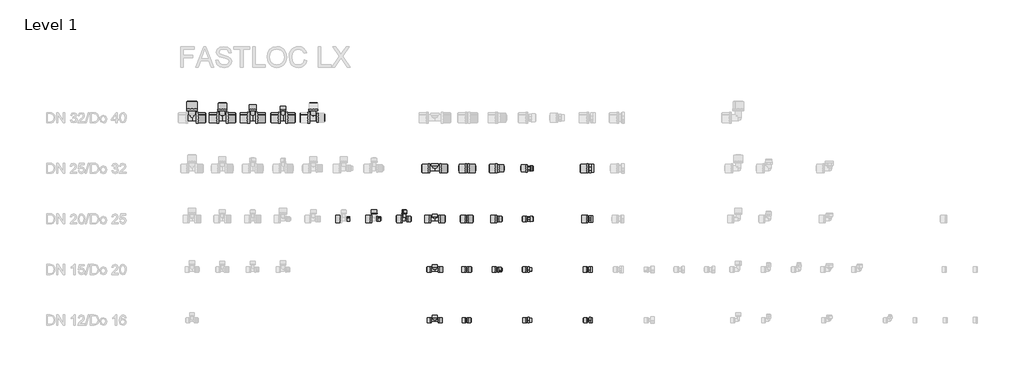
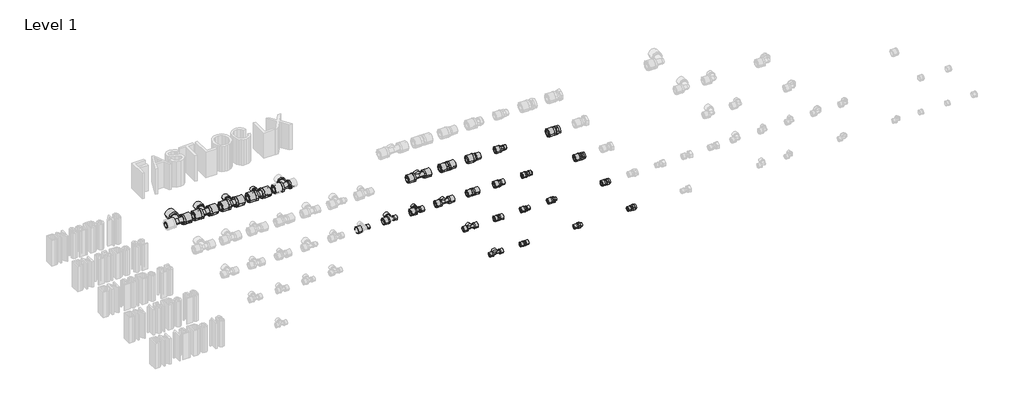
# One storey, part 2 of 4: 124 pipe fittings.
"""IFC4 building model written with IfcOpenShell, lengths in millimetres."""

from ifc_helpers import new_model, si_unit, origin, place, context, project, spatial, transform, mapped, element, save
from components import pipe_fitting_d1512616, pipe_fitting_53f43fdb, pipe_fitting_049613d0, pipe_fitting_c7c0347b, pipe_fitting_bcc3186d, pipe_fitting_274f672a, pipe_fitting_238fadd8, pipe_fitting_b6172677, pipe_fitting_dc7a118d, pipe_fitting_08194d44, pipe_fitting_df035500, pipe_fitting_cd8a310a, pipe_fitting_f0f965a3, pipe_fitting_ccabc239, pipe_fitting_4e5b1f9a, pipe_fitting_ba498e85, pipe_fitting_08e86eaf, pipe_fitting_1bd85c2e, pipe_fitting_81e095b9, pipe_fitting_978079ad, pipe_fitting_e33b69b1, pipe_fitting_42f006d8, pipe_fitting_a33f7a1e, pipe_fitting_a3bd5d88, pipe_fitting_08f3d266, pipe_fitting_0fc03181, pipe_fitting_095a3a5d, pipe_fitting_23295b15, pipe_fitting_82e31f29, pipe_fitting_c9032ad2, sleeve_fsl_pvdf_957fc3e3, sleeve_fsl_pvdf_9ecdae78, sleeve_fsl_pvdf_b286e573, sleeve_fsl_pvdf_64652941, sleeve_fsl_pvdf_bb947688

model = new_model("IFC4")

# Units and contexts
model_context = context("Model", 3, world=origin())
ifc_project = project(units=[si_unit("LENGTHUNIT", "METRE", prefix="MILLI")], contexts=[model_context])

# Site, building, storey
site = spatial("IfcSite", under=ifc_project)
building = spatial("IfcBuilding", under=site)
storey = spatial("IfcBuildingStorey", under=building, Name="Level 1", Elevation=0.0)

# Pipe fittings
placement = place(None, origin())
pipe_fitting_shape = pipe_fitting_d1512616(model_context)
element("IfcPipeFitting", 1, ObjectType="FASTLOC_Sleeve outside : FSL S O DN1", at=placement, inside=storey, context=model_context, shape_type="MappedRepresentation", body=[
    mapped(pipe_fitting_shape, transform((1654.0, 0.0, 0.0), x_axis=(-1.0, 0.0, 0.0), y_axis=(0.0, -1.0, 0.0), z_axis=(0.0, 0.0, 1.0))),
])
element("IfcPipeFitting", 2, ObjectType="FASTLOC_Sleeve outside : FSL S O DN1", at=placement, inside=storey, context=model_context, shape_type="MappedRepresentation", body=[
    mapped(pipe_fitting_shape, transform((1954.0, 0.0, 0.0), x_axis=(-1.0, 0.0, 0.0), y_axis=(0.0, -1.0, 0.0), z_axis=(0.0, 0.0, 1.0))),
])
element("IfcPipeFitting", 3, ObjectType="FASTLOC_Sleeve outside : FSL S O DN1", at=placement, inside=storey, context=model_context, shape_type="MappedRepresentation", body=[
    mapped(pipe_fitting_shape, transform((1354.0, 0.0, 0.0), x_axis=(-1.0, 0.0, 0.0), y_axis=(0.0, -1.0, 0.0), z_axis=(0.0, 0.0, 1.0))),
])
element("IfcPipeFitting", 4, ObjectType="FASTLOC_Sleeve outside : FSL S O DN1", at=placement, inside=storey, context=model_context, shape_type="MappedRepresentation", body=[
    mapped(pipe_fitting_shape, transform((1360.4, 0.0, 0.0), x_axis=(1.0, 0.0, 0.0), y_axis=(0.0, 1.0, 0.0), z_axis=(0.0, 0.0, 1.0))),
])
element("IfcPipeFitting", 5, ObjectType="FASTLOC_Sleeve outside : FSL S O DN1", at=placement, inside=storey, context=model_context, shape_type="MappedRepresentation", body=[
    mapped(pipe_fitting_shape, transform((1511.0, 250.0, 0.0), x_axis=(1.0, 0.0, 0.0), y_axis=(0.0, 1.0, 0.0), z_axis=(0.0, 0.0, 1.0))),
])
element("IfcPipeFitting", 6, ObjectType="FASTLOC_Sleeve outside : FSL S O DN1", at=placement, inside=storey, context=model_context, shape_type="MappedRepresentation", body=[
    mapped(pipe_fitting_shape, transform((1182.0, 0.0, 0.0), x_axis=(-1.0, 0.0, 0.0), y_axis=(0.0, -1.0, 0.0), z_axis=(0.0, 0.0, 1.0))),
])
element("IfcPipeFitting", 7, ObjectType="FASTLOC_Sleeve outside : FSL S O DN1", at=placement, inside=storey, context=model_context, shape_type="MappedRepresentation", body=[
    mapped(pipe_fitting_shape, transform((1218.0, 0.0, 0.0), x_axis=(1.0, 0.0, 0.0), y_axis=(0.0, 1.0, 0.0), z_axis=(0.0, 0.0, 1.0))),
])
element("IfcPipeFitting", 8, ObjectType="FASTLOC_Sleeve outside : FSL S O DN1", at=placement, inside=storey, context=model_context, shape_type="MappedRepresentation", body=[
    mapped(pipe_fitting_shape, transform((1050.0, 525.1, 0.0), x_axis=(0.0, 1.0, 0.0), y_axis=(-1.0, 0.0, 0.0), z_axis=(0.0, 0.0, 1.0))),
])
element("IfcPipeFitting", 9, ObjectType="FASTLOC_Sleeve outside : FSL S O DN1", at=placement, inside=storey, context=model_context, shape_type="MappedRepresentation", body=[
    mapped(pipe_fitting_shape, transform((913.0, 500.0, 0.0), x_axis=(1.0, 0.0, 0.0), y_axis=(0.0, 1.0, 0.0), z_axis=(0.0, 0.0, 1.0))),
])
pipe_fitting_2_shape = pipe_fitting_53f43fdb(model_context)
element("IfcPipeFitting", 10, ObjectType="FASTLOC_Sleeve outside : FSL S O DN1", at=placement, inside=storey, context=model_context, shape_type="MappedRepresentation", body=[
    mapped(pipe_fitting_2_shape, transform((1654.7, 250.0, 0.0), x_axis=(-1.0, 0.0, 0.0), y_axis=(0.0, -1.0, 0.0), z_axis=(0.0, 0.0, 1.0))),
])
element("IfcPipeFitting", 11, ObjectType="FASTLOC_Sleeve outside : FSL S O DN1", at=placement, inside=storey, context=model_context, shape_type="MappedRepresentation", body=[
    mapped(pipe_fitting_2_shape, transform((1654.7, 500.0, 0.0), x_axis=(-1.0, 0.0, 0.0), y_axis=(0.0, -1.0, 0.0), z_axis=(0.0, 0.0, 1.0))),
])
element("IfcPipeFitting", 12, ObjectType="FASTLOC_Sleeve outside : FSL S O DN1", at=placement, inside=storey, context=model_context, shape_type="MappedRepresentation", body=[
    mapped(pipe_fitting_2_shape, transform((1954.7, 250.0, 0.0), x_axis=(-1.0, 0.0, 0.0), y_axis=(0.0, -1.0, 0.0), z_axis=(0.0, 0.0, 1.0))),
])
element("IfcPipeFitting", 13, ObjectType="FASTLOC_Sleeve outside : FSL S O DN1", at=placement, inside=storey, context=model_context, shape_type="MappedRepresentation", body=[
    mapped(pipe_fitting_2_shape, transform((1354.7, 250.0, 0.0), x_axis=(-1.0, 0.0, 0.0), y_axis=(0.0, -1.0, 0.0), z_axis=(0.0, 0.0, 1.0))),
])
element("IfcPipeFitting", 14, ObjectType="FASTLOC_Sleeve outside : FSL S O DN1", at=placement, inside=storey, context=model_context, shape_type="MappedRepresentation", body=[
    mapped(pipe_fitting_2_shape, transform((1360.1, 250.0, 0.0), x_axis=(1.0, 0.0, 0.0), y_axis=(0.0, 1.0, 0.0), z_axis=(0.0, 0.0, 1.0))),
])
element("IfcPipeFitting", 15, ObjectType="FASTLOC_Sleeve outside : FSL S O DN1", at=placement, inside=storey, context=model_context, shape_type="MappedRepresentation", body=[
    mapped(pipe_fitting_2_shape, transform((1504.7, 250.0, 0.0), x_axis=(-1.0, 0.0, 0.0), y_axis=(0.0, -1.0, 0.0), z_axis=(0.0, 0.0, 1.0))),
])
element("IfcPipeFitting", 16, ObjectType="FASTLOC_Sleeve outside : FSL S O DN1", at=placement, inside=storey, context=model_context, shape_type="MappedRepresentation", body=[
    mapped(pipe_fitting_2_shape, transform((1510.8, 500.0, 0.0), x_axis=(1.0, 0.0, 0.0), y_axis=(0.0, 1.0, 0.0), z_axis=(0.0, 0.0, 1.0))),
])
element("IfcPipeFitting", 17, ObjectType="FASTLOC_Sleeve outside : FSL S O DN1", at=placement, inside=storey, context=model_context, shape_type="MappedRepresentation", body=[
    mapped(pipe_fitting_2_shape, transform((1182.2, 250.0, 0.0), x_axis=(-1.0, 0.0, 0.0), y_axis=(0.0, -1.0, 0.0), z_axis=(0.0, 0.0, 1.0))),
])
element("IfcPipeFitting", 18, ObjectType="FASTLOC_Sleeve outside : FSL S O DN1", at=placement, inside=storey, context=model_context, shape_type="MappedRepresentation", body=[
    mapped(pipe_fitting_2_shape, transform((1217.8, 250.0, 0.0), x_axis=(1.0, 0.0, 0.0), y_axis=(0.0, 1.0, 0.0), z_axis=(0.0, 0.0, 1.0))),
])
element("IfcPipeFitting", 19, ObjectType="FASTLOC_Sleeve outside : FSL S O DN1", at=placement, inside=storey, context=model_context, shape_type="MappedRepresentation", body=[
    mapped(pipe_fitting_2_shape, transform((450.0, 1035.8, 0.0), x_axis=(0.0, 1.0, 0.0), y_axis=(-1.0, 0.0, 0.0), z_axis=(0.0, 0.0, 1.0))),
])
element("IfcPipeFitting", 20, ObjectType="FASTLOC_Sleeve outside : FSL S O DN1", at=placement, inside=storey, context=model_context, shape_type="MappedRepresentation", body=[
    mapped(pipe_fitting_2_shape, transform((1060.8, 500.0, 0.0), x_axis=(1.0, 0.0, 0.0), y_axis=(0.0, 1.0, 0.0), z_axis=(0.0, 0.0, 1.0))),
])
element("IfcPipeFitting", 21, ObjectType="FASTLOC_Sleeve outside : FSL S O DN1", at=placement, inside=storey, context=model_context, shape_type="MappedRepresentation", body=[
    mapped(pipe_fitting_2_shape, transform((900.0, 524.5, 0.0), x_axis=(0.0, 1.0, 0.0), y_axis=(-1.0, 0.0, 0.0), z_axis=(0.0, 0.0, 1.0))),
])
pipe_fitting_3_shape = pipe_fitting_049613d0(model_context)
element("IfcPipeFitting", 22, ObjectType="FASTLOC_Sleeve outside : FSL S O DN1", at=placement, inside=storey, context=model_context, shape_type="MappedRepresentation", body=[
    mapped(pipe_fitting_3_shape, transform((1656.0, 750.0, 0.0), x_axis=(-1.0, 0.0, 0.0), y_axis=(0.0, -1.0, 0.0), z_axis=(0.0, 0.0, 1.0))),
])
element("IfcPipeFitting", 23, ObjectType="FASTLOC_Sleeve outside : FSL S O DN1", at=placement, inside=storey, context=model_context, shape_type="MappedRepresentation", body=[
    mapped(pipe_fitting_3_shape, transform((1956.0, 500.0, 0.0), x_axis=(-1.0, 0.0, 0.0), y_axis=(0.0, -1.0, 0.0), z_axis=(0.0, 0.0, 1.0))),
])
element("IfcPipeFitting", 24, ObjectType="FASTLOC_Sleeve outside : FSL S O DN1", at=placement, inside=storey, context=model_context, shape_type="MappedRepresentation", body=[
    mapped(pipe_fitting_3_shape, transform((1356.0, 500.0, 0.0), x_axis=(-1.0, 0.0, 0.0), y_axis=(0.0, -1.0, 0.0), z_axis=(0.0, 0.0, 1.0))),
])
element("IfcPipeFitting", 25, ObjectType="FASTLOC_Sleeve outside : FSL S O DN1", at=placement, inside=storey, context=model_context, shape_type="MappedRepresentation", body=[
    mapped(pipe_fitting_3_shape, transform((1360.0, 500.0, 0.0), x_axis=(1.0, 0.0, 0.0), y_axis=(0.0, 1.0, 0.0), z_axis=(0.0, 0.0, 1.0))),
])
element("IfcPipeFitting", 26, ObjectType="FASTLOC_Sleeve outside : FSL S O DN1", at=placement, inside=storey, context=model_context, shape_type="MappedRepresentation", body=[
    mapped(pipe_fitting_3_shape, transform((1506.0, 500.0, 0.0), x_axis=(-1.0, 0.0, 0.0), y_axis=(0.0, -1.0, 0.0), z_axis=(0.0, 0.0, 1.0))),
])
element("IfcPipeFitting", 27, ObjectType="FASTLOC_Sleeve outside : FSL S O DN1", at=placement, inside=storey, context=model_context, shape_type="MappedRepresentation", body=[
    mapped(pipe_fitting_3_shape, transform((1512.2, 750.0, 0.0), x_axis=(1.0, 0.0, 0.0), y_axis=(0.0, 1.0, 0.0), z_axis=(0.0, 0.0, 1.0))),
])
element("IfcPipeFitting", 28, ObjectType="FASTLOC_Sleeve outside : FSL S O DN1", at=placement, inside=storey, context=model_context, shape_type="MappedRepresentation", body=[
    mapped(pipe_fitting_3_shape, transform((1179.3, 500.0, 0.0), x_axis=(-1.0, 0.0, 0.0), y_axis=(0.0, -1.0, 0.0), z_axis=(0.0, 0.0, 1.0))),
])
element("IfcPipeFitting", 29, ObjectType="FASTLOC_Sleeve outside : FSL S O DN1", at=placement, inside=storey, context=model_context, shape_type="MappedRepresentation", body=[
    mapped(pipe_fitting_3_shape, transform((1220.7, 500.0, 0.0), x_axis=(1.0, 0.0, 0.0), y_axis=(0.0, 1.0, 0.0), z_axis=(0.0, 0.0, 1.0))),
])
element("IfcPipeFitting", 30, ObjectType="FASTLOC_Sleeve outside : FSL S O DN1", at=placement, inside=storey, context=model_context, shape_type="MappedRepresentation", body=[
    mapped(pipe_fitting_3_shape, transform((300.0, 1035.0, 0.0), x_axis=(0.0, 1.0, 0.0), y_axis=(-1.0, 0.0, 0.0), z_axis=(0.0, 0.0, 1.0))),
])
element("IfcPipeFitting", 31, ObjectType="FASTLOC_Sleeve outside : FSL S O DN1", at=placement, inside=storey, context=model_context, shape_type="MappedRepresentation", body=[
    mapped(pipe_fitting_3_shape, transform((1039.6, 500.0, 0.0), x_axis=(-1.0, 0.0, 0.0), y_axis=(0.0, -1.0, 0.0), z_axis=(0.0, 0.0, 1.0))),
])
element("IfcPipeFitting", 32, ObjectType="FASTLOC_Sleeve outside : FSL S O DN1", at=placement, inside=storey, context=model_context, shape_type="MappedRepresentation", body=[
    mapped(pipe_fitting_3_shape, transform((887.7, 500.0, 0.0), x_axis=(-1.0, 0.0, 0.0), y_axis=(0.0, -1.0, 0.0), z_axis=(0.0, 0.0, 1.0))),
])
pipe_fitting_4_shape = pipe_fitting_c7c0347b(model_context)
element("IfcPipeFitting", 33, ObjectType="FASTLOC_Sleeve outside : FSL S O DN1", at=placement, inside=storey, context=model_context, shape_type="MappedRepresentation", body=[
    mapped(pipe_fitting_4_shape, transform((1958.0, 750.0, 0.0), x_axis=(-1.0, 0.0, 0.0), y_axis=(0.0, -1.0, 0.0), z_axis=(0.0, 0.0, 1.0))),
])
element("IfcPipeFitting", 34, ObjectType="FASTLOC_Sleeve outside : FSL S O DN1", at=placement, inside=storey, context=model_context, shape_type="MappedRepresentation", body=[
    mapped(pipe_fitting_4_shape, transform((1358.0, 750.0, 0.0), x_axis=(-1.0, 0.0, 0.0), y_axis=(0.0, -1.0, 0.0), z_axis=(0.0, 0.0, 1.0))),
])
element("IfcPipeFitting", 35, ObjectType="FASTLOC_Sleeve outside : FSL S O DN1", at=placement, inside=storey, context=model_context, shape_type="MappedRepresentation", body=[
    mapped(pipe_fitting_4_shape, transform((1362.0, 750.0, 0.0), x_axis=(1.0, 0.0, 0.0), y_axis=(0.0, 1.0, 0.0), z_axis=(0.0, 0.0, 1.0))),
])
element("IfcPipeFitting", 36, ObjectType="FASTLOC_Sleeve outside : FSL S O DN1", at=placement, inside=storey, context=model_context, shape_type="MappedRepresentation", body=[
    mapped(pipe_fitting_4_shape, transform((1508.0, 750.0, 0.0), x_axis=(-1.0, 0.0, 0.0), y_axis=(0.0, -1.0, 0.0), z_axis=(0.0, 0.0, 1.0))),
])
element("IfcPipeFitting", 37, ObjectType="FASTLOC_Sleeve outside : FSL S O DN1", at=placement, inside=storey, context=model_context, shape_type="MappedRepresentation", body=[
    mapped(pipe_fitting_4_shape, transform((1175.0, 750.0, 0.0), x_axis=(-1.0, 0.0, 0.0), y_axis=(0.0, -1.0, 0.0), z_axis=(0.0, 0.0, 1.0))),
])
element("IfcPipeFitting", 38, ObjectType="FASTLOC_Sleeve outside : FSL S O DN1", at=placement, inside=storey, context=model_context, shape_type="MappedRepresentation", body=[
    mapped(pipe_fitting_4_shape, transform((1225.0, 750.0, 0.0), x_axis=(1.0, 0.0, 0.0), y_axis=(0.0, 1.0, 0.0), z_axis=(0.0, 0.0, 1.0))),
])
element("IfcPipeFitting", 39, ObjectType="FASTLOC_Sleeve outside : FSL S O DN1", at=placement, inside=storey, context=model_context, shape_type="MappedRepresentation", body=[
    mapped(pipe_fitting_4_shape, transform((150.0, 1034.8, 0.0), x_axis=(0.0, 1.0, 0.0), y_axis=(-1.0, 0.0, 0.0), z_axis=(0.0, 0.0, 1.0))),
])
element("IfcPipeFitting", 40, ObjectType="FASTLOC_Sleeve outside : FSL S O DN1", at=placement, inside=storey, context=model_context, shape_type="MappedRepresentation", body=[
    mapped(pipe_fitting_4_shape, transform((600.0, 1034.8, 0.0), x_axis=(0.0, 1.0, 0.0), y_axis=(-1.0, 0.0, 0.0), z_axis=(0.0, 0.0, 1.0))),
])
element("IfcPipeFitting", 41, ObjectType="FASTLOC_Sleeve outside : FSL S O DN1", at=placement, inside=storey, context=model_context, shape_type="MappedRepresentation", body=[
    mapped(pipe_fitting_4_shape, transform((616.9, 1000.0, 0.0), x_axis=(1.0, 0.0, 0.0), y_axis=(0.0, 1.0, 0.0), z_axis=(0.0, 0.0, 1.0))),
])
pipe_fitting_5_shape = pipe_fitting_bcc3186d(model_context)
element("IfcPipeFitting", 42, ObjectType="FASTLOC_Sleeve outside : FSL S O DN1", at=placement, inside=storey, context=model_context, shape_type="MappedRepresentation", body=[
    mapped(pipe_fitting_5_shape, transform((0.0, 1034.7, 0.0), x_axis=(0.0, 1.0, 0.0), y_axis=(-1.0, 0.0, 0.0), z_axis=(0.0, 0.0, 1.0))),
])
element("IfcPipeFitting", 43, ObjectType="FASTLOC_Sleeve outside : FSL S O DN1", at=placement, inside=storey, context=model_context, shape_type="MappedRepresentation", body=[
    mapped(pipe_fitting_5_shape, transform((21.4, 1000.0, 0.0), x_axis=(1.0, 0.0, 0.0), y_axis=(0.0, 1.0, 0.0), z_axis=(0.0, 0.0, 1.0))),
])
element("IfcPipeFitting", 44, ObjectType="FASTLOC_Sleeve outside : FSL S O DN1", at=placement, inside=storey, context=model_context, shape_type="MappedRepresentation", body=[
    mapped(pipe_fitting_5_shape, transform((436.0, 1000.0, 0.0), x_axis=(-1.0, 0.0, 0.0), y_axis=(0.0, -1.0, 0.0), z_axis=(0.0, 0.0, 1.0))),
])
element("IfcPipeFitting", 45, ObjectType="FASTLOC_Sleeve outside : FSL S O DN1", at=placement, inside=storey, context=model_context, shape_type="MappedRepresentation", body=[
    mapped(pipe_fitting_5_shape, transform((464.0, 1000.0, 0.0), x_axis=(1.0, 0.0, 0.0), y_axis=(0.0, 1.0, 0.0), z_axis=(0.0, 0.0, 1.0))),
])
element("IfcPipeFitting", 46, ObjectType="FASTLOC_Sleeve outside : FSL S O DN1", at=placement, inside=storey, context=model_context, shape_type="MappedRepresentation", body=[
    mapped(pipe_fitting_5_shape, transform((284.2, 1000.0, 0.0), x_axis=(-1.0, 0.0, 0.0), y_axis=(0.0, -1.0, 0.0), z_axis=(0.0, 0.0, 1.0))),
])
element("IfcPipeFitting", 47, ObjectType="FASTLOC_Sleeve outside : FSL S O DN1", at=placement, inside=storey, context=model_context, shape_type="MappedRepresentation", body=[
    mapped(pipe_fitting_5_shape, transform((315.8, 1000.0, 0.0), x_axis=(1.0, 0.0, 0.0), y_axis=(0.0, 1.0, 0.0), z_axis=(0.0, 0.0, 1.0))),
])
element("IfcPipeFitting", 48, ObjectType="FASTLOC_Sleeve outside : FSL S O DN1", at=placement, inside=storey, context=model_context, shape_type="MappedRepresentation", body=[
    mapped(pipe_fitting_5_shape, transform((131.4, 1000.0, 0.0), x_axis=(-1.0, 0.0, 0.0), y_axis=(0.0, -1.0, 0.0), z_axis=(0.0, 0.0, 1.0))),
])
element("IfcPipeFitting", 49, ObjectType="FASTLOC_Sleeve outside : FSL S O DN1", at=placement, inside=storey, context=model_context, shape_type="MappedRepresentation", body=[
    mapped(pipe_fitting_5_shape, transform((168.6, 1000.0, 0.0), x_axis=(1.0, 0.0, 0.0), y_axis=(0.0, 1.0, 0.0), z_axis=(0.0, 0.0, 1.0))),
])
element("IfcPipeFitting", 50, ObjectType="FASTLOC_Sleeve outside : FSL S O DN1", at=placement, inside=storey, context=model_context, shape_type="MappedRepresentation", body=[
    mapped(pipe_fitting_5_shape, transform((581.3, 1000.0, 0.0), x_axis=(-1.0, 0.0, 0.0), y_axis=(0.0, -1.0, 0.0), z_axis=(0.0, 0.0, 1.0))),
])
pipe_fitting_6_shape = pipe_fitting_274f672a(model_context)
element("IfcPipeFitting", 51, ObjectType="FASTLOC_Adapter_LX, with external thread : FSL A C external PL", at=placement, inside=storey, context=model_context, shape_type="MappedRepresentation", body=[
    mapped(pipe_fitting_6_shape, transform((1658.7, 250.0, 0.0), x_axis=(1.0, 0.0, 0.0), y_axis=(0.0, 1.0, 0.0), z_axis=(0.0, 0.0, 1.0))),
])
pipe_fitting_7_shape = pipe_fitting_238fadd8(model_context)
element("IfcPipeFitting", 52, ObjectType="FASTLOC_Adapter_LX, with external thread : FSL A C external PL", at=placement, inside=storey, context=model_context, shape_type="MappedRepresentation", body=[
    mapped(pipe_fitting_7_shape, transform((1659.3, 500.0, 0.0), x_axis=(1.0, 0.0, 0.0), y_axis=(0.0, 1.0, 0.0), z_axis=(0.0, 0.0, 1.0))),
])
pipe_fitting_8_shape = pipe_fitting_b6172677(model_context)
element("IfcPipeFitting", 53, ObjectType="FASTLOC_Adapter_LX, with external thread : FSL A C external PL", at=placement, inside=storey, context=model_context, shape_type="MappedRepresentation", body=[
    mapped(pipe_fitting_8_shape, transform((1659.4, 750.0, 0.0), x_axis=(1.0, 0.0, 0.0), y_axis=(0.0, 1.0, 0.0), z_axis=(0.0, 0.0, 1.0))),
])
pipe_fitting_9_shape = pipe_fitting_dc7a118d(model_context)
element("IfcPipeFitting", 54, ObjectType="FASTLOC_Adapter_LX, with internal thread : FSL A internal PL", at=placement, inside=storey, context=model_context, shape_type="MappedRepresentation", body=[
    mapped(pipe_fitting_9_shape, transform((1962.9, 500.0, 0.0), x_axis=(1.0, 0.0, 0.0), y_axis=(0.0, 1.0, 0.0), z_axis=(0.0, 0.0, 1.0))),
])
pipe_fitting_10_shape = pipe_fitting_08194d44(model_context)
element("IfcPipeFitting", 55, ObjectType="FASTLOC_Adapter_LX, with internal thread : FSL A internal PL", at=placement, inside=storey, context=model_context, shape_type="MappedRepresentation", body=[
    mapped(pipe_fitting_10_shape, transform((1964.5, 750.0, 0.0), x_axis=(1.0, 0.0, 0.0), y_axis=(0.0, 1.0, 0.0), z_axis=(0.0, 0.0, 1.0))),
])
pipe_fitting_11_shape = pipe_fitting_df035500(model_context)
element("IfcPipeFitting", 56, ObjectType="FASTLOC_Adapter_LX, with internal thread : FSL A internal PL", at=placement, inside=storey, context=model_context, shape_type="MappedRepresentation", body=[
    mapped(pipe_fitting_11_shape, transform((1961.7, 250.0, 0.0), x_axis=(1.0, 0.0, 0.0), y_axis=(0.0, 1.0, 0.0), z_axis=(0.0, 0.0, 1.0))),
])
pipe_fitting_12_shape = pipe_fitting_cd8a310a(model_context)
element("IfcPipeFitting", 57, ObjectType="FASTLOC_Coupling equal LX : FSL C LX PL", at=placement, inside=storey, context=model_context, shape_type="MappedRepresentation", body=[
    mapped(pipe_fitting_12_shape, transform((1357.4, 250.0, 0.0), x_axis=(1.0, 0.0, 0.0), y_axis=(0.0, 1.0, 0.0), z_axis=(0.0, 0.0, 1.0))),
])
pipe_fitting_13_shape = pipe_fitting_f0f965a3(model_context)
element("IfcPipeFitting", 58, ObjectType="FASTLOC_Coupling equal LX : FSL C LX PL", at=placement, inside=storey, context=model_context, shape_type="MappedRepresentation", body=[
    mapped(pipe_fitting_13_shape, transform((1358.0, 500.0, 0.0), x_axis=(1.0, 0.0, 0.0), y_axis=(0.0, 1.0, 0.0), z_axis=(0.0, 0.0, 1.0))),
])
pipe_fitting_14_shape = pipe_fitting_ccabc239(model_context)
element("IfcPipeFitting", 59, ObjectType="FASTLOC_Coupling equal LX : FSL C LX PL", at=placement, inside=storey, context=model_context, shape_type="MappedRepresentation", body=[
    mapped(pipe_fitting_14_shape, transform((1360.0, 750.0, 0.0), x_axis=(1.0, 0.0, 0.0), y_axis=(0.0, 1.0, 0.0), z_axis=(0.0, 0.0, 1.0))),
])
pipe_fitting_15_shape = pipe_fitting_4e5b1f9a(model_context)
element("IfcPipeFitting", 60, ObjectType="FASTLOC_Coupling reduced LX : FSL C LX PL", at=placement, inside=storey, context=model_context, shape_type="MappedRepresentation", body=[
    mapped(pipe_fitting_15_shape, transform((1508.7, 250.0, 0.0), x_axis=(1.0, 0.0, 0.0), y_axis=(0.0, 1.0, 0.0), z_axis=(0.0, 0.0, 1.0))),
])
pipe_fitting_16_shape = pipe_fitting_ba498e85(model_context)
element("IfcPipeFitting", 61, ObjectType="FASTLOC_Coupling reduced LX : FSL C LX PL", at=placement, inside=storey, context=model_context, shape_type="MappedRepresentation", body=[
    mapped(pipe_fitting_16_shape, transform((1509.8, 500.0, 0.0), x_axis=(1.0, 0.0, 0.0), y_axis=(0.0, 1.0, 0.0), z_axis=(0.0, 0.0, 1.0))),
])
pipe_fitting_17_shape = pipe_fitting_08e86eaf(model_context)
element("IfcPipeFitting", 62, ObjectType="FASTLOC_Coupling reduced LX : FSL C LX PL", at=placement, inside=storey, context=model_context, shape_type="MappedRepresentation", body=[
    mapped(pipe_fitting_17_shape, transform((1512.4, 750.0, 0.0), x_axis=(1.0, 0.0, 0.0), y_axis=(0.0, 1.0, 0.0), z_axis=(0.0, 0.0, 1.0))),
])
pipe_fitting_18_shape = pipe_fitting_1bd85c2e(model_context)
element("IfcPipeFitting", 63, ObjectType="FASTLOC_T-piece internal thread LX : FSL T thread LX PL", at=placement, inside=storey, context=model_context, shape_type="MappedRepresentation", body=[
    mapped(pipe_fitting_18_shape, transform((1200.0, 0.0, 0.0), x_axis=(1.0, 0.0, 0.0), y_axis=(0.0, 1.0, 0.0), z_axis=(0.0, 0.0, 1.0))),
])
pipe_fitting_19_shape = pipe_fitting_81e095b9(model_context)
element("IfcPipeFitting", 64, ObjectType="FASTLOC_T-piece internal thread LX : FSL T thread LX PL", at=placement, inside=storey, context=model_context, shape_type="MappedRepresentation", body=[
    mapped(pipe_fitting_19_shape, transform((1200.0, 250.0, 0.0), x_axis=(1.0, 0.0, 0.0), y_axis=(0.0, 1.0, 0.0), z_axis=(0.0, 0.0, 1.0))),
])
pipe_fitting_20_shape = pipe_fitting_978079ad(model_context)
element("IfcPipeFitting", 65, ObjectType="FASTLOC_T-piece internal thread LX : FSL T thread LX PL", at=placement, inside=storey, context=model_context, shape_type="MappedRepresentation", body=[
    mapped(pipe_fitting_20_shape, transform((1200.0, 500.0, 0.0), x_axis=(1.0, 0.0, 0.0), y_axis=(0.0, 1.0, 0.0), z_axis=(0.0, 0.0, 1.0))),
])
pipe_fitting_21_shape = pipe_fitting_e33b69b1(model_context)
element("IfcPipeFitting", 66, ObjectType="FASTLOC_T-piece_LX : FSL T-Piece LX PL", at=placement, inside=storey, context=model_context, shape_type="MappedRepresentation", body=[
    mapped(pipe_fitting_21_shape, transform((0.0, 1000.0, 0.0), x_axis=(1.0, 0.0, 0.0), y_axis=(0.0, 1.0, 0.0), z_axis=(0.0, 0.0, 1.0))),
])
pipe_fitting_22_shape = pipe_fitting_42f006d8(model_context)
element("IfcPipeFitting", 67, ObjectType="FASTLOC_T-piece_LX : FSL T-Piece LX PL", at=placement, inside=storey, context=model_context, shape_type="MappedRepresentation", body=[
    mapped(pipe_fitting_22_shape, transform((450.0, 1000.0, 0.0), x_axis=(1.0, 0.0, 0.0), y_axis=(0.0, 1.0, 0.0), z_axis=(0.0, 0.0, 1.0))),
])
pipe_fitting_23_shape = pipe_fitting_a33f7a1e(model_context)
element("IfcPipeFitting", 68, ObjectType="FASTLOC_T-piece_LX : FSL T-Piece LX PL", at=placement, inside=storey, context=model_context, shape_type="MappedRepresentation", body=[
    mapped(pipe_fitting_23_shape, transform((300.0, 1000.0, 0.0), x_axis=(1.0, 0.0, 0.0), y_axis=(0.0, 1.0, 0.0), z_axis=(0.0, 0.0, 1.0))),
])
pipe_fitting_24_shape = pipe_fitting_a3bd5d88(model_context)
element("IfcPipeFitting", 69, ObjectType="FASTLOC_T-piece_LX : FSL T-Piece LX PL", at=placement, inside=storey, context=model_context, shape_type="MappedRepresentation", body=[
    mapped(pipe_fitting_24_shape, transform((150.0, 1000.0, 0.0), x_axis=(1.0, 0.0, 0.0), y_axis=(0.0, 1.0, 0.0), z_axis=(0.0, 0.0, 1.0))),
])
pipe_fitting_25_shape = pipe_fitting_08f3d266(model_context)
element("IfcPipeFitting", 70, ObjectType="FASTLOC_T-piece_LX : FSL T-Piece LX PL", at=placement, inside=storey, context=model_context, shape_type="MappedRepresentation", body=[
    mapped(pipe_fitting_25_shape, transform((600.0, 1000.0, 0.0), x_axis=(1.0, 0.0, 0.0), y_axis=(0.0, 1.0, 0.0), z_axis=(0.0, 0.0, 1.0))),
])
pipe_fitting_26_shape = pipe_fitting_0fc03181(model_context)
element("IfcPipeFitting", 71, ObjectType="FASTLOC_T-piece_LX : FSL T-Piece LX PL", at=placement, inside=storey, context=model_context, shape_type="MappedRepresentation", body=[
    mapped(pipe_fitting_26_shape, transform((1050.0, 500.0, 0.0), x_axis=(1.0, 0.0, 0.0), y_axis=(0.0, 1.0, 0.0), z_axis=(0.0, 0.0, 1.0))),
])
pipe_fitting_27_shape = pipe_fitting_095a3a5d(model_context)
element("IfcPipeFitting", 72, ObjectType="FASTLOC_Adapter_LX, with external thread : FSL A C external PL", at=placement, inside=storey, context=model_context, shape_type="MappedRepresentation", body=[
    mapped(pipe_fitting_27_shape, transform((1658.9, 0.0, 0.0), x_axis=(1.0, 0.0, 0.0), y_axis=(0.0, 1.0, 0.0), z_axis=(0.0, 0.0, 1.0))),
])
pipe_fitting_28_shape = pipe_fitting_23295b15(model_context)
element("IfcPipeFitting", 73, ObjectType="FASTLOC_Adapter_LX, with internal thread : FSL A internal PL", at=placement, inside=storey, context=model_context, shape_type="MappedRepresentation", body=[
    mapped(pipe_fitting_28_shape, transform((1962.4, 0.0, 0.0), x_axis=(1.0, 0.0, 0.0), y_axis=(0.0, 1.0, 0.0), z_axis=(0.0, 0.0, 1.0))),
])
pipe_fitting_29_shape = pipe_fitting_82e31f29(model_context)
element("IfcPipeFitting", 74, ObjectType="FASTLOC_Coupling equal LX : FSL C LX PL", at=placement, inside=storey, context=model_context, shape_type="MappedRepresentation", body=[
    mapped(pipe_fitting_29_shape, transform((1357.2, 0.0, 0.0), x_axis=(1.0, 0.0, 0.0), y_axis=(0.0, 1.0, 0.0), z_axis=(0.0, 0.0, 1.0))),
])
pipe_fitting_30_shape = pipe_fitting_c9032ad2(model_context)
element("IfcPipeFitting", 75, ObjectType="FASTLOC_T-piece internal thread LX : FSL T thread LX PL", at=placement, inside=storey, context=model_context, shape_type="MappedRepresentation", body=[
    mapped(pipe_fitting_30_shape, transform((1200.0, 750.0, 0.0), x_axis=(1.0, 0.0, 0.0), y_axis=(0.0, 1.0, 0.0), z_axis=(0.0, 0.0, 1.0))),
])
sleeve_fsl_pvdf_shape = sleeve_fsl_pvdf_957fc3e3(model_context)
element("IfcPipeFitting", 76, ObjectType="Sleeve : FSL PVDF", at=placement, inside=storey, context=model_context, shape_type="MappedRepresentation", body=[
    mapped(sleeve_fsl_pvdf_shape, transform((1650.0, 0.0, 0.0), x_axis=(-1.0, 0.0, 0.0), y_axis=(0.0, -1.0, 0.0), z_axis=(0.0, 0.0, 1.0))),
])
element("IfcPipeFitting", 77, ObjectType="Sleeve : FSL PVDF", at=placement, inside=storey, context=model_context, shape_type="MappedRepresentation", body=[
    mapped(sleeve_fsl_pvdf_shape, transform((1950.0, 0.0, 0.0), x_axis=(-1.0, 0.0, 0.0), y_axis=(0.0, -1.0, 0.0), z_axis=(0.0, 0.0, 1.0))),
])
element("IfcPipeFitting", 78, ObjectType="Sleeve : FSL PVDF", at=placement, inside=storey, context=model_context, shape_type="MappedRepresentation", body=[
    mapped(sleeve_fsl_pvdf_shape, transform((1350.0, 0.0, 0.0), x_axis=(-1.0, 0.0, 0.0), y_axis=(0.0, -1.0, 0.0), z_axis=(0.0, 0.0, 1.0))),
])
element("IfcPipeFitting", 79, ObjectType="Sleeve : FSL PVDF", at=placement, inside=storey, context=model_context, shape_type="MappedRepresentation", body=[
    mapped(sleeve_fsl_pvdf_shape, transform((1364.4, 0.0, 0.0), x_axis=(1.0, 0.0, 0.0), y_axis=(0.0, 1.0, 0.0), z_axis=(0.0, 0.0, 1.0))),
])
element("IfcPipeFitting", 80, ObjectType="Sleeve : FSL PVDF", at=placement, inside=storey, context=model_context, shape_type="MappedRepresentation", body=[
    mapped(sleeve_fsl_pvdf_shape, transform((1515.0, 250.0, 0.0), x_axis=(1.0, 0.0, 0.0), y_axis=(0.0, 1.0, 0.0), z_axis=(0.0, 0.0, 1.0))),
])
element("IfcPipeFitting", 81, ObjectType="Sleeve : FSL PVDF", at=placement, inside=storey, context=model_context, shape_type="MappedRepresentation", body=[
    mapped(sleeve_fsl_pvdf_shape, transform((1178.0, 0.0, 0.0), x_axis=(-1.0, 0.0, 0.0), y_axis=(0.0, -1.0, 0.0), z_axis=(0.0, 0.0, 1.0))),
])
element("IfcPipeFitting", 82, ObjectType="Sleeve : FSL PVDF", at=placement, inside=storey, context=model_context, shape_type="MappedRepresentation", body=[
    mapped(sleeve_fsl_pvdf_shape, transform((1222.0, 0.0, 0.0), x_axis=(1.0, 0.0, 0.0), y_axis=(0.0, 1.0, 0.0), z_axis=(0.0, 0.0, 1.0))),
])
element("IfcPipeFitting", 83, ObjectType="Sleeve : FSL PVDF", at=placement, inside=storey, context=model_context, shape_type="MappedRepresentation", body=[
    mapped(sleeve_fsl_pvdf_shape, transform((765.1, 500.0, 0.0), x_axis=(1.0, 0.0, 0.0), y_axis=(0.0, 1.0, 0.0), z_axis=(0.0, 0.0, 1.0))),
])
element("IfcPipeFitting", 84, ObjectType="Sleeve : FSL PVDF", at=placement, inside=storey, context=model_context, shape_type="MappedRepresentation", body=[
    mapped(sleeve_fsl_pvdf_shape, transform((1050.0, 529.1, 0.0), x_axis=(0.0, 1.0, 0.0), y_axis=(-1.0, 0.0, 0.0), z_axis=(0.0, 0.0, 1.0))),
])
element("IfcPipeFitting", 85, ObjectType="Sleeve : FSL PVDF", at=placement, inside=storey, context=model_context, shape_type="MappedRepresentation", body=[
    mapped(sleeve_fsl_pvdf_shape, transform((917.0, 500.0, 0.0), x_axis=(1.0, 0.0, 0.0), y_axis=(0.0, 1.0, 0.0), z_axis=(0.0, 0.0, 1.0))),
])
sleeve_fsl_pvdf_2_shape = sleeve_fsl_pvdf_9ecdae78(model_context)
element("IfcPipeFitting", 86, ObjectType="Sleeve : FSL PVDF", at=placement, inside=storey, context=model_context, shape_type="MappedRepresentation", body=[
    mapped(sleeve_fsl_pvdf_2_shape, transform((1650.0, 250.0, 0.0), x_axis=(-1.0, 0.0, 0.0), y_axis=(0.0, -1.0, 0.0), z_axis=(0.0, 0.0, 1.0))),
])
element("IfcPipeFitting", 87, ObjectType="Sleeve : FSL PVDF", at=placement, inside=storey, context=model_context, shape_type="MappedRepresentation", body=[
    mapped(sleeve_fsl_pvdf_2_shape, transform((1650.0, 500.0, 0.0), x_axis=(-1.0, 0.0, 0.0), y_axis=(0.0, -1.0, 0.0), z_axis=(0.0, 0.0, 1.0))),
])
element("IfcPipeFitting", 88, ObjectType="Sleeve : FSL PVDF", at=placement, inside=storey, context=model_context, shape_type="MappedRepresentation", body=[
    mapped(sleeve_fsl_pvdf_2_shape, transform((1950.0, 250.0, 0.0), x_axis=(-1.0, 0.0, 0.0), y_axis=(0.0, -1.0, 0.0), z_axis=(0.0, 0.0, 1.0))),
])
element("IfcPipeFitting", 89, ObjectType="Sleeve : FSL PVDF", at=placement, inside=storey, context=model_context, shape_type="MappedRepresentation", body=[
    mapped(sleeve_fsl_pvdf_2_shape, transform((1350.0, 250.0, 0.0), x_axis=(-1.0, 0.0, 0.0), y_axis=(0.0, -1.0, 0.0), z_axis=(0.0, 0.0, 1.0))),
])
element("IfcPipeFitting", 90, ObjectType="Sleeve : FSL PVDF", at=placement, inside=storey, context=model_context, shape_type="MappedRepresentation", body=[
    mapped(sleeve_fsl_pvdf_2_shape, transform((1364.8, 250.0, 0.0), x_axis=(1.0, 0.0, 0.0), y_axis=(0.0, 1.0, 0.0), z_axis=(0.0, 0.0, 1.0))),
])
element("IfcPipeFitting", 91, ObjectType="Sleeve : FSL PVDF", at=placement, inside=storey, context=model_context, shape_type="MappedRepresentation", body=[
    mapped(sleeve_fsl_pvdf_2_shape, transform((1500.0, 250.0, 0.0), x_axis=(-1.0, 0.0, 0.0), y_axis=(0.0, -1.0, 0.0), z_axis=(0.0, 0.0, 1.0))),
])
element("IfcPipeFitting", 92, ObjectType="Sleeve : FSL PVDF", at=placement, inside=storey, context=model_context, shape_type="MappedRepresentation", body=[
    mapped(sleeve_fsl_pvdf_2_shape, transform((1515.5, 500.0, 0.0), x_axis=(1.0, 0.0, 0.0), y_axis=(0.0, 1.0, 0.0), z_axis=(0.0, 0.0, 1.0))),
])
element("IfcPipeFitting", 93, ObjectType="Sleeve : FSL PVDF", at=placement, inside=storey, context=model_context, shape_type="MappedRepresentation", body=[
    mapped(sleeve_fsl_pvdf_2_shape, transform((1177.5, 250.0, 0.0), x_axis=(-1.0, 0.0, 0.0), y_axis=(0.0, -1.0, 0.0), z_axis=(0.0, 0.0, 1.0))),
])
element("IfcPipeFitting", 94, ObjectType="Sleeve : FSL PVDF", at=placement, inside=storey, context=model_context, shape_type="MappedRepresentation", body=[
    mapped(sleeve_fsl_pvdf_2_shape, transform((1222.5, 250.0, 0.0), x_axis=(1.0, 0.0, 0.0), y_axis=(0.0, 1.0, 0.0), z_axis=(0.0, 0.0, 1.0))),
])
element("IfcPipeFitting", 95, ObjectType="Sleeve : FSL PVDF", at=placement, inside=storey, context=model_context, shape_type="MappedRepresentation", body=[
    mapped(sleeve_fsl_pvdf_2_shape, transform((450.0, 1040.5, 0.0), x_axis=(0.0, 1.0, 0.0), y_axis=(-1.0, 0.0, 0.0), z_axis=(0.0, 0.0, 1.0))),
])
element("IfcPipeFitting", 96, ObjectType="Sleeve : FSL PVDF", at=placement, inside=storey, context=model_context, shape_type="MappedRepresentation", body=[
    mapped(sleeve_fsl_pvdf_2_shape, transform((1065.5, 500.0, 0.0), x_axis=(1.0, 0.0, 0.0), y_axis=(0.0, 1.0, 0.0), z_axis=(0.0, 0.0, 1.0))),
])
element("IfcPipeFitting", 97, ObjectType="Sleeve : FSL PVDF", at=placement, inside=storey, context=model_context, shape_type="MappedRepresentation", body=[
    mapped(sleeve_fsl_pvdf_2_shape, transform((900.0, 529.2, 0.0), x_axis=(0.0, 1.0, 0.0), y_axis=(-1.0, 0.0, 0.0), z_axis=(0.0, 0.0, 1.0))),
])
sleeve_fsl_pvdf_3_shape = sleeve_fsl_pvdf_b286e573(model_context)
element("IfcPipeFitting", 98, ObjectType="Sleeve : FSL PVDF", at=placement, inside=storey, context=model_context, shape_type="MappedRepresentation", body=[
    mapped(sleeve_fsl_pvdf_3_shape, transform((1650.0, 750.0, 0.0), x_axis=(-1.0, 0.0, 0.0), y_axis=(0.0, -1.0, 0.0), z_axis=(0.0, 0.0, 1.0))),
])
element("IfcPipeFitting", 99, ObjectType="Sleeve : FSL PVDF", at=placement, inside=storey, context=model_context, shape_type="MappedRepresentation", body=[
    mapped(sleeve_fsl_pvdf_3_shape, transform((1950.0, 500.0, 0.0), x_axis=(-1.0, 0.0, 0.0), y_axis=(0.0, -1.0, 0.0), z_axis=(0.0, 0.0, 1.0))),
])
element("IfcPipeFitting", 100, ObjectType="Sleeve : FSL PVDF", at=placement, inside=storey, context=model_context, shape_type="MappedRepresentation", body=[
    mapped(sleeve_fsl_pvdf_3_shape, transform((1350.0, 500.0, 0.0), x_axis=(-1.0, 0.0, 0.0), y_axis=(0.0, -1.0, 0.0), z_axis=(0.0, 0.0, 1.0))),
])
element("IfcPipeFitting", 101, ObjectType="Sleeve : FSL PVDF", at=placement, inside=storey, context=model_context, shape_type="MappedRepresentation", body=[
    mapped(sleeve_fsl_pvdf_3_shape, transform((1366.0, 500.0, 0.0), x_axis=(1.0, 0.0, 0.0), y_axis=(0.0, 1.0, 0.0), z_axis=(0.0, 0.0, 1.0))),
])
element("IfcPipeFitting", 102, ObjectType="Sleeve : FSL PVDF", at=placement, inside=storey, context=model_context, shape_type="MappedRepresentation", body=[
    mapped(sleeve_fsl_pvdf_3_shape, transform((1500.0, 500.0, 0.0), x_axis=(-1.0, 0.0, 0.0), y_axis=(0.0, -1.0, 0.0), z_axis=(0.0, 0.0, 1.0))),
])
element("IfcPipeFitting", 103, ObjectType="Sleeve : FSL PVDF", at=placement, inside=storey, context=model_context, shape_type="MappedRepresentation", body=[
    mapped(sleeve_fsl_pvdf_3_shape, transform((1518.2, 750.0, 0.0), x_axis=(1.0, 0.0, 0.0), y_axis=(0.0, 1.0, 0.0), z_axis=(0.0, 0.0, 1.0))),
])
element("IfcPipeFitting", 104, ObjectType="Sleeve : FSL PVDF", at=placement, inside=storey, context=model_context, shape_type="MappedRepresentation", body=[
    mapped(sleeve_fsl_pvdf_3_shape, transform((1173.3, 500.0, 0.0), x_axis=(-1.0, 0.0, 0.0), y_axis=(0.0, -1.0, 0.0), z_axis=(0.0, 0.0, 1.0))),
])
element("IfcPipeFitting", 105, ObjectType="Sleeve : FSL PVDF", at=placement, inside=storey, context=model_context, shape_type="MappedRepresentation", body=[
    mapped(sleeve_fsl_pvdf_3_shape, transform((1226.7, 500.0, 0.0), x_axis=(1.0, 0.0, 0.0), y_axis=(0.0, 1.0, 0.0), z_axis=(0.0, 0.0, 1.0))),
])
element("IfcPipeFitting", 106, ObjectType="Sleeve : FSL PVDF", at=placement, inside=storey, context=model_context, shape_type="MappedRepresentation", body=[
    mapped(sleeve_fsl_pvdf_3_shape, transform((300.0, 1041.0, 0.0), x_axis=(0.0, 1.0, 0.0), y_axis=(-1.0, 0.0, 0.0), z_axis=(0.0, 0.0, 1.0))),
])
element("IfcPipeFitting", 107, ObjectType="Sleeve : FSL PVDF", at=placement, inside=storey, context=model_context, shape_type="MappedRepresentation", body=[
    mapped(sleeve_fsl_pvdf_3_shape, transform((733.6, 500.0, 0.0), x_axis=(-1.0, 0.0, 0.0), y_axis=(0.0, -1.0, 0.0), z_axis=(0.0, 0.0, 1.0))),
])
element("IfcPipeFitting", 108, ObjectType="Sleeve : FSL PVDF", at=placement, inside=storey, context=model_context, shape_type="MappedRepresentation", body=[
    mapped(sleeve_fsl_pvdf_3_shape, transform((1033.6, 500.0, 0.0), x_axis=(-1.0, 0.0, 0.0), y_axis=(0.0, -1.0, 0.0), z_axis=(0.0, 0.0, 1.0))),
])
element("IfcPipeFitting", 109, ObjectType="Sleeve : FSL PVDF", at=placement, inside=storey, context=model_context, shape_type="MappedRepresentation", body=[
    mapped(sleeve_fsl_pvdf_3_shape, transform((881.7, 500.0, 0.0), x_axis=(-1.0, 0.0, 0.0), y_axis=(0.0, -1.0, 0.0), z_axis=(0.0, 0.0, 1.0))),
])
sleeve_fsl_pvdf_4_shape = sleeve_fsl_pvdf_64652941(model_context)
element("IfcPipeFitting", 110, ObjectType="Sleeve : FSL PVDF", at=placement, inside=storey, context=model_context, shape_type="MappedRepresentation", body=[
    mapped(sleeve_fsl_pvdf_4_shape, transform((1950.0, 750.0, 0.0), x_axis=(-1.0, 0.0, 0.0), y_axis=(0.0, -1.0, 0.0), z_axis=(0.0, 0.0, 1.0))),
])
element("IfcPipeFitting", 111, ObjectType="Sleeve : FSL PVDF", at=placement, inside=storey, context=model_context, shape_type="MappedRepresentation", body=[
    mapped(sleeve_fsl_pvdf_4_shape, transform((1350.0, 750.0, 0.0), x_axis=(-1.0, 0.0, 0.0), y_axis=(0.0, -1.0, 0.0), z_axis=(0.0, 0.0, 1.0))),
])
element("IfcPipeFitting", 112, ObjectType="Sleeve : FSL PVDF", at=placement, inside=storey, context=model_context, shape_type="MappedRepresentation", body=[
    mapped(sleeve_fsl_pvdf_4_shape, transform((1370.0, 750.0, 0.0), x_axis=(1.0, 0.0, 0.0), y_axis=(0.0, 1.0, 0.0), z_axis=(0.0, 0.0, 1.0))),
])
element("IfcPipeFitting", 113, ObjectType="Sleeve : FSL PVDF", at=placement, inside=storey, context=model_context, shape_type="MappedRepresentation", body=[
    mapped(sleeve_fsl_pvdf_4_shape, transform((1500.0, 750.0, 0.0), x_axis=(-1.0, 0.0, 0.0), y_axis=(0.0, -1.0, 0.0), z_axis=(0.0, 0.0, 1.0))),
])
element("IfcPipeFitting", 114, ObjectType="Sleeve : FSL PVDF", at=placement, inside=storey, context=model_context, shape_type="MappedRepresentation", body=[
    mapped(sleeve_fsl_pvdf_4_shape, transform((1167.0, 750.0, 0.0), x_axis=(-1.0, 0.0, 0.0), y_axis=(0.0, -1.0, 0.0), z_axis=(0.0, 0.0, 1.0))),
])
element("IfcPipeFitting", 115, ObjectType="Sleeve : FSL PVDF", at=placement, inside=storey, context=model_context, shape_type="MappedRepresentation", body=[
    mapped(sleeve_fsl_pvdf_4_shape, transform((1233.0, 750.0, 0.0), x_axis=(1.0, 0.0, 0.0), y_axis=(0.0, 1.0, 0.0), z_axis=(0.0, 0.0, 1.0))),
])
element("IfcPipeFitting", 116, ObjectType="Sleeve : FSL PVDF", at=placement, inside=storey, context=model_context, shape_type="MappedRepresentation", body=[
    mapped(sleeve_fsl_pvdf_4_shape, transform((150.0, 1042.8, 0.0), x_axis=(0.0, 1.0, 0.0), y_axis=(-1.0, 0.0, 0.0), z_axis=(0.0, 0.0, 1.0))),
])
sleeve_fsl_pvdf_5_shape = sleeve_fsl_pvdf_bb947688(model_context)
element("IfcPipeFitting", 117, ObjectType="Sleeve : FSL PVDF", at=placement, inside=storey, context=model_context, shape_type="MappedRepresentation", body=[
    mapped(sleeve_fsl_pvdf_5_shape, transform((0.0, 1044.7, 0.0), x_axis=(0.0, 1.0, 0.0), y_axis=(-1.0, 0.0, 0.0), z_axis=(0.0, 0.0, 1.0))),
])
element("IfcPipeFitting", 118, ObjectType="Sleeve : FSL PVDF", at=placement, inside=storey, context=model_context, shape_type="MappedRepresentation", body=[
    mapped(sleeve_fsl_pvdf_5_shape, transform((31.4, 1000.0, 0.0), x_axis=(1.0, 0.0, 0.0), y_axis=(0.0, 1.0, 0.0), z_axis=(0.0, 0.0, 1.0))),
])
element("IfcPipeFitting", 119, ObjectType="Sleeve : FSL PVDF", at=placement, inside=storey, context=model_context, shape_type="MappedRepresentation", body=[
    mapped(sleeve_fsl_pvdf_5_shape, transform((426.0, 1000.0, 0.0), x_axis=(-1.0, 0.0, 0.0), y_axis=(0.0, -1.0, 0.0), z_axis=(0.0, 0.0, 1.0))),
])
element("IfcPipeFitting", 120, ObjectType="Sleeve : FSL PVDF", at=placement, inside=storey, context=model_context, shape_type="MappedRepresentation", body=[
    mapped(sleeve_fsl_pvdf_5_shape, transform((474.0, 1000.0, 0.0), x_axis=(1.0, 0.0, 0.0), y_axis=(0.0, 1.0, 0.0), z_axis=(0.0, 0.0, 1.0))),
])
element("IfcPipeFitting", 121, ObjectType="Sleeve : FSL PVDF", at=placement, inside=storey, context=model_context, shape_type="MappedRepresentation", body=[
    mapped(sleeve_fsl_pvdf_5_shape, transform((274.2, 1000.0, 0.0), x_axis=(-1.0, 0.0, 0.0), y_axis=(0.0, -1.0, 0.0), z_axis=(0.0, 0.0, 1.0))),
])
element("IfcPipeFitting", 122, ObjectType="Sleeve : FSL PVDF", at=placement, inside=storey, context=model_context, shape_type="MappedRepresentation", body=[
    mapped(sleeve_fsl_pvdf_5_shape, transform((325.8, 1000.0, 0.0), x_axis=(1.0, 0.0, 0.0), y_axis=(0.0, 1.0, 0.0), z_axis=(0.0, 0.0, 1.0))),
])
element("IfcPipeFitting", 123, ObjectType="Sleeve : FSL PVDF", at=placement, inside=storey, context=model_context, shape_type="MappedRepresentation", body=[
    mapped(sleeve_fsl_pvdf_5_shape, transform((121.4, 1000.0, 0.0), x_axis=(-1.0, 0.0, 0.0), y_axis=(0.0, -1.0, 0.0), z_axis=(0.0, 0.0, 1.0))),
])
element("IfcPipeFitting", 124, ObjectType="Sleeve : FSL PVDF", at=placement, inside=storey, context=model_context, shape_type="MappedRepresentation", body=[
    mapped(sleeve_fsl_pvdf_5_shape, transform((178.6, 1000.0, 0.0), x_axis=(1.0, 0.0, 0.0), y_axis=(0.0, 1.0, 0.0), z_axis=(0.0, 0.0, 1.0))),
])

save(model, "model.ifc")
